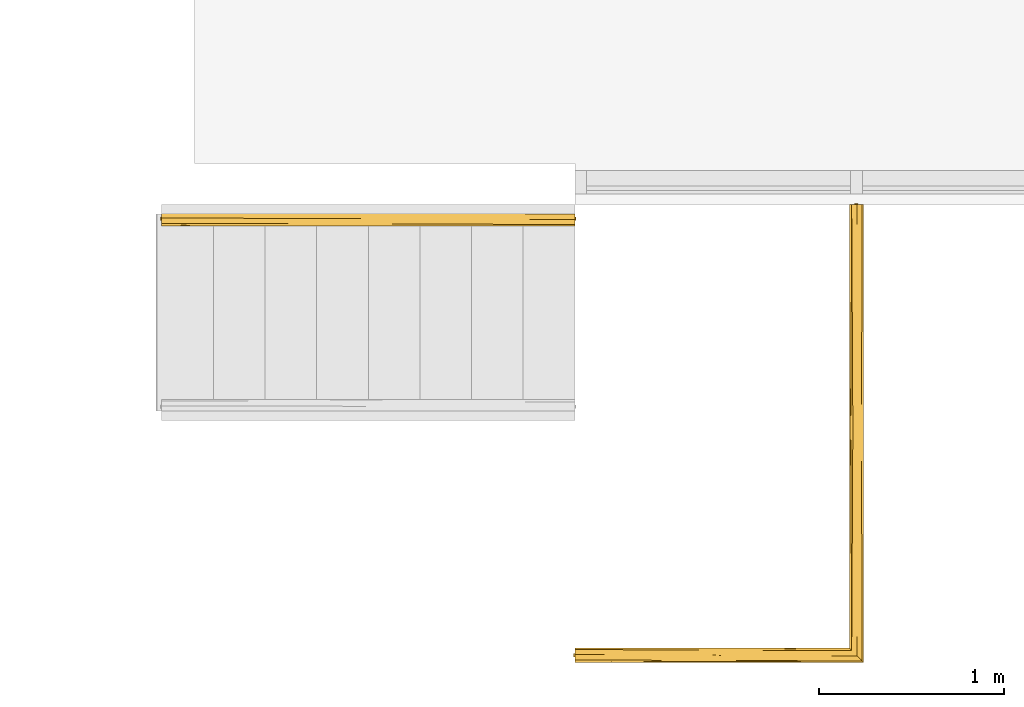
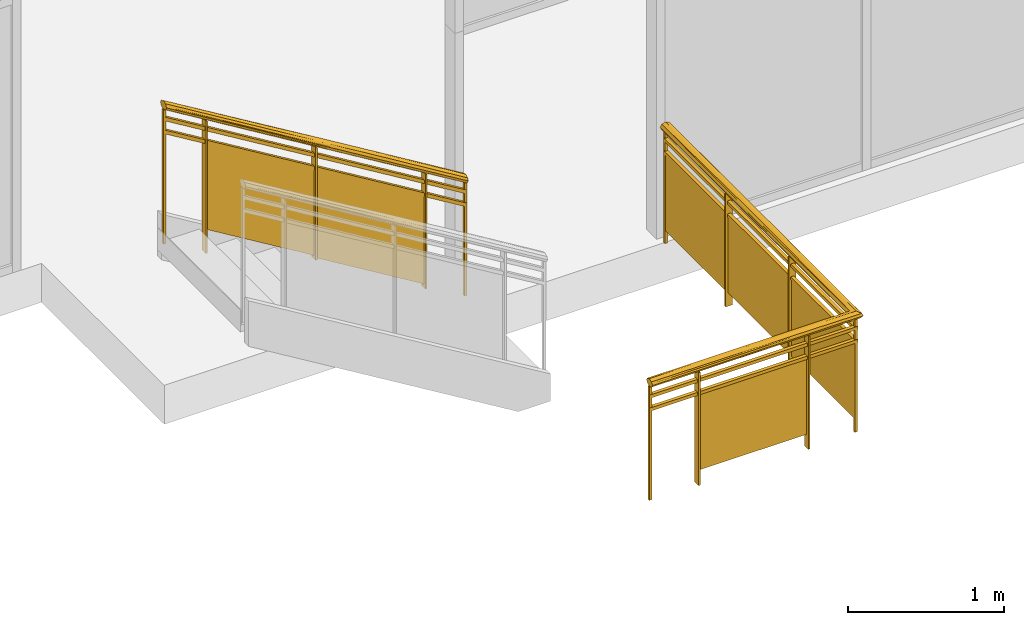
# One storey, part 10 of 11: 2 railings, 1 element without a shape of its own.
"""IFC2X3 building model written with IfcOpenShell, lengths in feet."""

from ifc_helpers import new_model, entity, si_unit, converted_unit, derived_unit, direction, frame, origin, place, context, subcontext, project, spatial, faceted_brep, material, material_list, element, aggregate, save


model = new_model("IFC2X3")

# Units and contexts
model_context = context("Model", 3, precision=0.0001, world=origin(), true_north=direction((6.12303176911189e-17, 1.0)))
body_context = subcontext(model_context, "Body", "Model", "MODEL_VIEW")
ifc_project = project(units=[converted_unit("LENGTHUNIT", "FOOT", entity("IfcRatioMeasure", 0.3048), si_unit("LENGTHUNIT", "METRE"), dimensions=[1, 0, 0, 0, 0, 0, 0]), converted_unit("AREAUNIT", "SQUARE FOOT", entity("IfcRatioMeasure", 0.09290304), si_unit("AREAUNIT", "SQUARE_METRE"), dimensions=[2, 0, 0, 0, 0, 0, 0]), converted_unit("VOLUMEUNIT", "CUBIC FOOT", entity("IfcRatioMeasure", 0.028316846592), si_unit("VOLUMEUNIT", "CUBIC_METRE"), dimensions=[3, 0, 0, 0, 0, 0, 0]), converted_unit("PLANEANGLEUNIT", "DEGREE", entity("IfcRatioMeasure", 0.0174532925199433), si_unit("PLANEANGLEUNIT", "RADIAN"), dimensions=[0, 0, 0, 0, 0, 0, 0]), si_unit("MASSUNIT", "GRAM", prefix="KILO"), derived_unit("MASSDENSITYUNIT", [(si_unit("MASSUNIT", "GRAM", prefix="KILO"), 1), (si_unit("LENGTHUNIT", "METRE"), -3)]), si_unit("TIMEUNIT", "SECOND"), si_unit("FREQUENCYUNIT", "HERTZ"), si_unit("THERMODYNAMICTEMPERATUREUNIT", "DEGREE_CELSIUS"), derived_unit("THERMALTRANSMITTANCEUNIT", [(si_unit("MASSUNIT", "GRAM", prefix="KILO"), 1), (si_unit("THERMODYNAMICTEMPERATUREUNIT", "KELVIN"), -1), (si_unit("TIMEUNIT", "SECOND"), -3)]), derived_unit("VOLUMETRICFLOWRATEUNIT", [(si_unit("LENGTHUNIT", "METRE"), 3), (si_unit("TIMEUNIT", "SECOND"), -1)]), si_unit("ELECTRICCURRENTUNIT", "AMPERE"), si_unit("ELECTRICVOLTAGEUNIT", "VOLT"), si_unit("POWERUNIT", "WATT"), si_unit("FORCEUNIT", "NEWTON"), si_unit("ILLUMINANCEUNIT", "LUX"), si_unit("LUMINOUSFLUXUNIT", "LUMEN"), si_unit("LUMINOUSINTENSITYUNIT", "CANDELA"), derived_unit("USERDEFINED", [(si_unit("MASSUNIT", "GRAM", prefix="KILO"), -1), (si_unit("LENGTHUNIT", "METRE"), -2), (si_unit("TIMEUNIT", "SECOND"), 3), (si_unit("LUMINOUSFLUXUNIT", "LUMEN"), 1)]), derived_unit("LINEARVELOCITYUNIT", [(si_unit("LENGTHUNIT", "METRE"), 1), (si_unit("TIMEUNIT", "SECOND"), -1)]), si_unit("PRESSUREUNIT", "PASCAL"), derived_unit("USERDEFINED", [(si_unit("LENGTHUNIT", "METRE"), -2), (si_unit("MASSUNIT", "GRAM", prefix="KILO"), 1), (si_unit("TIMEUNIT", "SECOND"), -2)])], contexts=[model_context])

# Site, building, storey
site_placement = place(None, origin())
site = spatial("IfcSite", under=ifc_project, at=site_placement, Name="Default", CompositionType="ELEMENT")
building_placement = place(site_placement, origin())
building = spatial("IfcBuilding", under=site, at=building_placement, CompositionType="ELEMENT")
storey_placement = place(building_placement, frame((0.0, 0.0, 40.0)))
storey = spatial("IfcBuildingStorey", under=building, at=storey_placement, Name="L 7", CompositionType="ELEMENT", Elevation=39.9999999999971)

# Stair, railing
stair_placement = place(storey_placement, origin())
stair = element("IfcStair", 1, at=stair_placement, inside=storey, Name="Assembled Stair:Stair", ObjectType="Assembled Stair:7\" max riser 11\" tread", ShapeType="NOTDEFINED")
ifc_material_1 = material(Name="Glass")
ifc_material_2 = material(Name="alum - color")
ifc_material_list_1 = material_list([ifc_material_1, ifc_material_2])
railing_1_placement = place(stair_placement, frame((-29.0126627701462, -7.71720842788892, 0.555555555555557)))
railing_1 = element("IfcRailing", 2, at=railing_1_placement, material=ifc_material_list_1, Name="Railing:Glass Panel - Bottom Fill", ObjectType="Railing:Glass Panel - Bottom Fill", PredefinedType="NOTDEFINED", context=body_context, shape_type="Brep", body=[
    faceted_brep([(6.33333333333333, 0.213567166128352, 3.50850232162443), (6.33333333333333, 0.213567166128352, 0.555555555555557), (6.33333333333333, 0.0469004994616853, 0.555555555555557), (6.33333333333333, 0.0469004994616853, 3.50850232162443), (6.375, 0.213567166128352, 3.4832497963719), (6.375, 0.213567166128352, 0.555555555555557), (6.375, 0.0469004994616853, 3.4832497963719), (6.375, 0.0469004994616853, 0.555555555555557)], [[[0, 1, 2, 3]], [[4, 5, 1, 0]], [[6, 7, 5, 4]], [[3, 2, 7, 6]], [[3, 6, 4, 0]], [[1, 5, 7, 2]]]),
    faceted_brep([(3.6875, 0.108793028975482, 2.25252525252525), (6.35416666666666, 0.10879302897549, 0.636363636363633), (6.35416666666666, 0.10879302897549, 2.89067226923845), (3.6875, 0.108793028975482, 4.50683388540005), (3.6875, 0.129626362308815, 2.25252525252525), (3.6875, 0.129626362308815, 4.50683388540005), (6.35416666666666, 0.129626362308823, 2.89067226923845), (6.35416666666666, 0.129626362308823, 0.636363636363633)], [[[0, 1, 2, 3]], [[4, 5, 6, 7]], [[3, 5, 4, 0]], [[2, 6, 5, 3]], [[1, 7, 6, 2]], [[0, 4, 7, 1]]]),
    faceted_brep([(3.66666666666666, 0.213567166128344, 5.12466393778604), (3.66666666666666, 0.213567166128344, 2.22222222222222), (3.66666666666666, 0.0469004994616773, 2.22222222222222), (3.66666666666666, 0.0469004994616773, 5.12466393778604), (3.70833333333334, 0.213567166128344, 5.09941141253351), (3.70833333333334, 0.213567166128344, 2.22222222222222), (3.70833333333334, 0.0469004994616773, 5.09941141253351), (3.70833333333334, 0.0469004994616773, 2.22222222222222)], [[[0, 1, 2, 3]], [[4, 5, 1, 0]], [[6, 7, 5, 4]], [[3, 2, 7, 6]], [[3, 6, 4, 0]], [[1, 5, 7, 2]]]),
    faceted_brep([(1.02083333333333, 0.108793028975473, 3.91919191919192), (3.6875, 0.108793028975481, 2.3030303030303), (3.6875, 0.108793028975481, 4.50683388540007), (1.02083333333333, 0.108793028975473, 6.12299550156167), (1.02083333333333, 0.129626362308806, 3.91919191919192), (1.02083333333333, 0.129626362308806, 6.12299550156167), (3.6875, 0.129626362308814, 4.50683388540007), (3.6875, 0.129626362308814, 2.3030303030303)], [[[0, 1, 2, 3]], [[4, 5, 6, 7]], [[3, 5, 4, 0]], [[2, 6, 5, 3]], [[1, 7, 6, 2]], [[0, 4, 7, 1]]]),
    faceted_brep([(1.0, 0.213567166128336, 6.74082555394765), (1.0, 0.213567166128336, 3.33333333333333), (1.0, 0.0469004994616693, 3.33333333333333), (1.0, 0.0469004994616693, 6.74082555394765), (1.04166666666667, 0.213567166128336, 6.71557302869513), (1.04166666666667, 0.213567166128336, 3.33333333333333), (1.04166666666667, 0.0469004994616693, 6.71557302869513), (1.04166666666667, 0.0469004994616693, 3.33333333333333)], [[[0, 1, 2, 3]], [[4, 5, 1, 0]], [[6, 7, 5, 4]], [[3, 2, 7, 6]], [[3, 6, 4, 0]], [[1, 5, 7, 2]]]),
    faceted_brep([(7.3125, 0.161483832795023, 2.91506797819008), (7.3125, 0.161483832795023, 0.0), (7.3125, 0.0989838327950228, 0.0), (7.3125, 0.0989838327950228, 2.91506797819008), (7.375, 0.161483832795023, 2.87718919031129), (7.375, 0.161483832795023, 0.0), (7.375, 0.0989838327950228, 2.87718919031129), (7.375, 0.0989838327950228, 0.0)], [[[0, 1, 2, 3]], [[4, 5, 1, 0]], [[6, 7, 5, 4]], [[3, 2, 7, 6]], [[3, 6, 4, 0]], [[1, 5, 7, 2]]]),
    faceted_brep([(0.0, 0.161483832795, 7.34688616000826), (0.0, 0.161483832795, 3.88888888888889), (0.0, 0.0989838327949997, 3.88888888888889), (0.0, 0.0989838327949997, 7.34688616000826), (0.0625, 0.161483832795, 7.30900737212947), (0.0625, 0.161483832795, 3.88888888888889), (0.0625, 0.0989838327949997, 7.30900737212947), (0.0625, 0.0989838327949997, 3.88888888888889)], [[[0, 1, 2, 3]], [[4, 5, 1, 0]], [[6, 7, 5, 4]], [[3, 2, 7, 6]], [[3, 6, 4, 0]], [[1, 5, 7, 2]]]),
    faceted_brep([(0.0208333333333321, 0.171900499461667, 7.1598327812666), (0.0208333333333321, 0.171900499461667, 7.06238944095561), (0.0208333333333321, 0.0885671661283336, 7.06238944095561), (0.0208333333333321, 0.0885671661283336, 7.1598327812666), (7.35416666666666, 0.17190049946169, 2.71538833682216), (7.35416666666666, 0.0885671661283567, 2.71538833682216), (7.35416666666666, 0.0885671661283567, 2.61794499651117), (7.35416666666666, 0.17190049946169, 2.61794499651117)], [[[0, 1, 2, 3]], [[4, 5, 6, 7]], [[1, 0, 4, 7]], [[2, 1, 7, 6]], [[3, 2, 6, 5]], [[0, 3, 5, 4]]]),
    faceted_brep([(0.0208333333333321, 0.171900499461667, 6.82649944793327), (0.0208333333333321, 0.171900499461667, 6.72905610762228), (0.0208333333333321, 0.0885671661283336, 6.72905610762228), (0.0208333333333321, 0.0885671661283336, 6.82649944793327), (7.35416666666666, 0.17190049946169, 2.38205500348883), (7.35416666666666, 0.0885671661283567, 2.38205500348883), (7.35416666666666, 0.0885671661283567, 2.28461166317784), (7.35416666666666, 0.17190049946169, 2.28461166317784)], [[[0, 1, 2, 3]], [[4, 5, 6, 7]], [[1, 0, 4, 7]], [[2, 1, 7, 6]], [[3, 2, 6, 5]], [[0, 3, 5, 4]]]),
    faceted_brep([(7.35416666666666, 0.213875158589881, 3.08146632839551), (7.35416666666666, 0.165521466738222, 3.09524477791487), (7.35416666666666, 0.117167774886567, 3.10902322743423), (7.35416666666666, 0.0731372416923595, 3.08672922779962), (7.35416666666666, 0.0291067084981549, 3.06443522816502), (7.35416666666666, 0.017170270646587, 3.03221761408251), (7.35416666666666, 0.00523383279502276, 3.0), (7.35416666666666, 0.0259131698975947, 2.95926683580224), (7.35416666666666, 0.0465925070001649, 2.91853367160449), (7.35416666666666, 0.0949461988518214, 2.90475522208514), (7.35416666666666, 0.11912304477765, 2.89786599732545), (7.35416666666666, 0.143299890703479, 2.89097677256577), (7.35416666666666, 0.187330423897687, 2.91327077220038), (7.35416666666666, 0.231360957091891, 2.93556477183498), (7.35416666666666, 0.243297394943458, 2.96778238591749), (7.35416666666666, 0.255233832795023, 3.0), (7.35416666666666, 0.234554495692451, 3.04073316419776), (0.0208333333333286, 0.234554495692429, 7.40371128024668), (0.0208333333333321, 0.213875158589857, 7.36297811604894), (0.0208333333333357, 0.1655214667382, 7.34919966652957), (0.0208333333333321, 0.117167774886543, 7.33542121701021), (0.0208333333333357, 0.0731372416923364, 7.35771521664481), (0.0208333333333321, 0.0291067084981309, 7.38000921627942), (0.0208333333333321, 0.0171702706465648, 7.41222683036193), (0.0208333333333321, 0.00523383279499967, 7.44444444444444), (0.0208333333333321, 0.0160886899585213, 7.4658258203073), (0.0208333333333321, 0.0259131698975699, 7.48517760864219), (0.0208333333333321, 0.0465925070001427, 7.52591077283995), (0.0208333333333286, 0.0949461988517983, 7.53968922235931), (0.0208333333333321, 0.143299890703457, 7.55346767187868), (0.0208333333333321, 0.165315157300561, 7.54232067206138), (0.0208333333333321, 0.187330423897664, 7.53117367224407), (0.0208333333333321, 0.231360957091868, 7.50887967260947), (0.0208333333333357, 0.243297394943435, 7.47666205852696), (0.0208333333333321, 0.255233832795, 7.44444444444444), (3.6747094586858, 0.0137122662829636, 5.19028869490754), (3.50252181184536, 0.0829558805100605, 5.23284993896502), (3.45921612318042, 0.0528675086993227, 5.27447257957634), (4.29628493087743, 0.0291542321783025, 4.78876910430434), (4.21550662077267, 0.00523383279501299, 4.90221820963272), (3.15949109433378, 0.00523383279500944, 5.54222761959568), (3.33385169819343, 0.197494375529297, 5.34415364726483), (4.1491412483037, 0.165864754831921, 4.83736380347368), (3.68570699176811, 0.13026662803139, 5.11368513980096), (3.64781981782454, 0.223695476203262, 5.17347577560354), (3.92848502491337, 0.242734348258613, 5.02838773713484), (4.21551438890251, 0.255233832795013, 4.90221350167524), (3.82716822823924, 0.248958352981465, 5.17187272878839), (4.04455402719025, 0.234486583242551, 5.06630868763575), (3.23018888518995, 0.211415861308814, 5.58273826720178), (3.68909777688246, 0.181027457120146, 5.32141906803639), (4.183508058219, 0.00868237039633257, 4.94718335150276), (3.83159048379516, 0.133323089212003, 5.24448493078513), (3.94783373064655, 0.098844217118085, 5.17055526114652), (3.77597728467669, 0.0386138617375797, 5.24317359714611), (3.99573411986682, 0.0188155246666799, 5.08510860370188), (3.11455551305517, 0.067139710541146, 5.66409552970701)], [[[0, 1, 2, 3, 4, 5, 6, 7, 8, 9, 10, 11, 12, 13, 14, 15, 16]], [[17, 18, 19, 20, 21, 22, 23, 24, 25, 26, 27, 28, 29, 30, 31, 32, 33, 34]], [[35, 7, 6]], [[9, 8, 36, 10]], [[22, 37, 38]], [[37, 36, 8]], [[21, 36, 37]], [[35, 6, 39, 40]], [[41, 42, 19]], [[38, 7, 35]], [[19, 42, 43]], [[44, 41, 18]], [[13, 45, 14]], [[8, 38, 37]], [[44, 12, 41]], [[38, 8, 7]], [[11, 43, 42]], [[17, 34, 46]], [[35, 23, 22]], [[11, 10, 43]], [[40, 24, 23]], [[21, 37, 22]], [[36, 21, 20]], [[36, 20, 43]], [[36, 43, 10]], [[43, 20, 19]], [[42, 12, 11]], [[12, 42, 41]], [[13, 12, 44]], [[18, 41, 19]], [[46, 15, 14]], [[44, 18, 17]], [[17, 45, 44]], [[38, 35, 22]], [[45, 17, 46]], [[23, 35, 40]], [[44, 45, 13]], [[14, 45, 46]], [[16, 47, 48]], [[0, 48, 49]], [[49, 31, 50]], [[31, 30, 50]], [[51, 26, 25]], [[2, 52, 53]], [[54, 27, 26]], [[54, 55, 4]], [[26, 51, 55]], [[47, 16, 15]], [[54, 26, 55]], [[5, 4, 55]], [[25, 24, 40, 39]], [[56, 54, 3]], [[56, 3, 53]], [[50, 0, 49]], [[27, 54, 56]], [[51, 39, 6]], [[53, 52, 28]], [[54, 4, 3]], [[56, 28, 27]], [[28, 56, 53]], [[5, 55, 51]], [[29, 28, 52]], [[2, 53, 3]], [[30, 29, 52]], [[52, 2, 1]], [[1, 0, 50]], [[52, 50, 30]], [[1, 50, 52]], [[49, 32, 31]], [[32, 49, 48]], [[33, 48, 47]], [[16, 48, 0]], [[46, 34, 47, 15]], [[33, 32, 48]], [[33, 47, 34]], [[5, 51, 6]], [[39, 51, 25]]]),
])
aggregate(stair, [railing_1])

# Railing
ifc_material_list_2 = material_list([ifc_material_1, ifc_material_2])
railing_2_placement = place(storey_placement, frame((-21.6793294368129, -15.4672084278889, 0.0)))
element("IfcRailing", 3, at=railing_2_placement, inside=storey, material=ifc_material_list_2, Name="Railing:Glass Panel - Bottom Fill", ObjectType="Railing:Glass Panel - Bottom Fill", PredefinedType="NOTDEFINED", context=body_context, shape_type="Brep", body=[
    faceted_brep([(1.20833333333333, 0.0469004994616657, 2.90577041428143), (1.20833333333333, 0.0469004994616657, 0.0), (1.20833333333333, 0.213567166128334, 0.0), (1.20833333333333, 0.213567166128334, 2.90577041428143), (1.16666666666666, 0.0469004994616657, 2.90577041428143), (1.16666666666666, 0.0469004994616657, 0.0), (1.16666666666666, 0.213567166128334, 2.90577041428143), (1.16666666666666, 0.213567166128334, 0.0)], [[[0, 1, 2, 3]], [[4, 5, 1, 0]], [[6, 7, 5, 4]], [[3, 2, 7, 6]], [[3, 6, 4, 0]], [[1, 5, 7, 2]]]),
    faceted_brep([(3.85416666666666, 0.15167463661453, 0.333333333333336), (1.18749999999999, 0.15167463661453, 0.333333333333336), (1.18749999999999, 0.15167463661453, 2.29166666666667), (3.85416666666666, 0.15167463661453, 2.29166666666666), (3.85416666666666, 0.130841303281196, 0.333333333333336), (3.85416666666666, 0.130841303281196, 2.29166666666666), (1.18749999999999, 0.130841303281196, 2.29166666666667), (1.18749999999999, 0.130841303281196, 0.333333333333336)], [[[0, 1, 2, 3]], [[4, 5, 6, 7]], [[3, 5, 4, 0]], [[2, 6, 5, 3]], [[1, 7, 6, 2]], [[0, 4, 7, 1]]]),
    faceted_brep([(3.87499999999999, 0.0469004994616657, 2.90577041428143), (3.87499999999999, 0.0469004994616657, 0.0), (3.87499999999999, 0.213567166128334, 0.0), (3.87499999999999, 0.213567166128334, 2.90577041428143), (3.83333333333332, 0.0469004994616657, 2.90577041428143), (3.83333333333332, 0.0469004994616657, 0.0), (3.83333333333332, 0.213567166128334, 2.90577041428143), (3.83333333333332, 0.213567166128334, 0.0)], [[[0, 1, 2, 3]], [[4, 5, 1, 0]], [[6, 7, 5, 4]], [[3, 2, 7, 6]], [[3, 6, 4, 0]], [[1, 5, 7, 2]]]),
    faceted_brep([(4.99939252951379, 2.79690049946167, 0.333333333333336), (4.99939252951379, 0.130233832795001, 0.333333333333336), (4.99939252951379, 0.130233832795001, 2.29166666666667), (4.99939252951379, 2.79690049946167, 2.29166666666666), (5.02022586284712, 2.79690049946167, 0.333333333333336), (5.02022586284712, 2.79690049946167, 2.29166666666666), (5.02022586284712, 0.130233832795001, 2.29166666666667), (5.02022586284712, 0.130233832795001, 0.333333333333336)], [[[0, 1, 2, 3]], [[4, 5, 6, 7]], [[3, 5, 4, 0]], [[2, 6, 5, 3]], [[1, 7, 6, 2]], [[0, 4, 7, 1]]]),
    faceted_brep([(5.10416666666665, 2.817733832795, 2.90577041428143), (5.10416666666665, 2.817733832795, 0.0), (4.93749999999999, 2.817733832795, 0.0), (4.93749999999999, 2.817733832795, 2.90577041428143), (5.10416666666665, 2.77606716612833, 2.90577041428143), (5.10416666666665, 2.77606716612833, 0.0), (4.93749999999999, 2.77606716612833, 2.90577041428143), (4.93749999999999, 2.77606716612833, 0.0)], [[[0, 1, 2, 3]], [[4, 5, 1, 0]], [[6, 7, 5, 4]], [[3, 2, 7, 6]], [[3, 6, 4, 0]], [[1, 5, 7, 2]]]),
    faceted_brep([(4.99939252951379, 5.46356716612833, 0.333333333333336), (4.99939252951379, 2.79690049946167, 0.333333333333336), (4.99939252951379, 2.79690049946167, 2.29166666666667), (4.99939252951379, 5.46356716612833, 2.29166666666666), (5.02022586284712, 5.46356716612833, 0.333333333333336), (5.02022586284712, 5.46356716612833, 2.29166666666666), (5.02022586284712, 2.79690049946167, 2.29166666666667), (5.02022586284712, 2.79690049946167, 0.333333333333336)], [[[0, 1, 2, 3]], [[4, 5, 6, 7]], [[3, 5, 4, 0]], [[2, 6, 5, 3]], [[1, 7, 6, 2]], [[0, 4, 7, 1]]]),
    faceted_brep([(5.10416666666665, 5.48440049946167, 2.90577041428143), (5.10416666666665, 5.48440049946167, 0.0), (4.93749999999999, 5.48440049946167, 0.0), (4.93749999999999, 5.48440049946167, 2.90577041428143), (5.10416666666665, 5.442733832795, 2.90577041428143), (5.10416666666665, 5.442733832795, 0.0), (4.93749999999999, 5.442733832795, 2.90577041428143), (4.93749999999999, 5.442733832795, 0.0)], [[[0, 1, 2, 3]], [[4, 5, 1, 0]], [[6, 7, 5, 4]], [[3, 2, 7, 6]], [[3, 6, 4, 0]], [[1, 5, 7, 2]]]),
    faceted_brep([(4.99939252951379, 8.130233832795, 0.333333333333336), (4.99939252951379, 5.46356716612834, 0.333333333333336), (4.99939252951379, 5.46356716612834, 2.29166666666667), (4.99939252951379, 8.130233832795, 2.29166666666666), (5.02022586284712, 8.130233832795, 0.333333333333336), (5.02022586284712, 8.130233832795, 2.29166666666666), (5.02022586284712, 5.46356716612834, 2.29166666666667), (5.02022586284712, 5.46356716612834, 0.333333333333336)], [[[0, 1, 2, 3]], [[4, 5, 6, 7]], [[3, 5, 4, 0]], [[2, 6, 5, 3]], [[1, 7, 6, 2]], [[0, 4, 7, 1]]]),
    faceted_brep([(5.05208333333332, 0.161483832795, 2.90577041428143), (5.05208333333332, 0.161483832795, 0.0), (4.98958333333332, 0.161483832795, 0.0), (4.98958333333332, 0.161483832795, 2.90577041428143), (5.05208333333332, 0.0989838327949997, 2.90577041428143), (5.05208333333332, 0.0989838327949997, 0.0), (4.98958333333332, 0.0989838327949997, 2.90577041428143), (4.98958333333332, 0.0989838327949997, 0.0)], [[[0, 1, 2, 3]], [[4, 5, 1, 0]], [[6, 7, 5, 4]], [[3, 2, 7, 6]], [[3, 6, 4, 0]], [[1, 5, 7, 2]]]),
    faceted_brep([(0.0625, 0.0989838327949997, 2.90577041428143), (0.0625, 0.0989838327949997, 0.0), (0.0625, 0.161483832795, 0.0), (0.0625, 0.161483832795, 2.90577041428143), (0.0, 0.0989838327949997, 2.90577041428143), (0.0, 0.0989838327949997, 0.0), (0.0, 0.161483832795, 2.90577041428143), (0.0, 0.161483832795, 0.0)], [[[0, 1, 2, 3]], [[4, 5, 1, 0]], [[6, 7, 5, 4]], [[3, 2, 7, 6]], [[3, 6, 4, 0]], [[1, 5, 7, 2]]]),
    faceted_brep([(5.05208333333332, 8.15106716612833, 2.90577041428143), (5.05208333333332, 8.15106716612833, 0.0), (4.98958333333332, 8.15106716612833, 0.0), (4.98958333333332, 8.15106716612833, 2.90577041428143), (5.05208333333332, 8.08856716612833, 2.90577041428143), (5.05208333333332, 8.08856716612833, 0.0), (4.98958333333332, 8.08856716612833, 2.90577041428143), (4.98958333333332, 8.08856716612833, 0.0)], [[[0, 1, 2, 3]], [[4, 5, 1, 0]], [[6, 7, 5, 4]], [[3, 2, 7, 6]], [[3, 6, 4, 0]], [[1, 5, 7, 2]]]),
    faceted_brep([(5.06249999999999, 8.130233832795, 2.70833333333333), (5.06249999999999, 8.130233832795, 2.62499999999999), (4.97916666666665, 8.130233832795, 2.625), (4.97916666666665, 8.130233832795, 2.70833333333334), (4.97916666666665, 0.171900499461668, 2.70833333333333), (5.06249999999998, 0.0885671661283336, 2.70833333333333), (4.97916666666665, 0.171900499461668, 2.625), (5.06249999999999, 0.0885671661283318, 2.625), (0.0208333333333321, 0.0885671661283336, 2.70833333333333), (0.0208333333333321, 0.171900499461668, 2.70833333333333), (0.0208333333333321, 0.171900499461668, 2.625), (0.0208333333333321, 0.0885671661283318, 2.625)], [[[0, 1, 2, 3]], [[0, 3, 4, 5]], [[3, 2, 6, 4]], [[2, 1, 7, 6]], [[1, 0, 5, 7]], [[8, 9, 10, 11]], [[5, 4, 9, 8]], [[4, 6, 10, 9]], [[6, 7, 11, 10]], [[7, 5, 8, 11]]]),
    faceted_brep([(5.06249999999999, 8.130233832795, 2.375), (5.06249999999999, 8.130233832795, 2.29166666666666), (4.97916666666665, 8.130233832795, 2.29166666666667), (4.97916666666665, 8.130233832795, 2.37500000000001), (4.97916666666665, 0.171900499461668, 2.375), (5.06249999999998, 0.0885671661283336, 2.375), (4.97916666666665, 0.171900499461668, 2.29166666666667), (5.06249999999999, 0.0885671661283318, 2.29166666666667), (0.0208333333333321, 0.0885671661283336, 2.375), (0.0208333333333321, 0.171900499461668, 2.375), (0.0208333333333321, 0.171900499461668, 2.29166666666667), (0.0208333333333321, 0.0885671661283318, 2.29166666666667)], [[[0, 1, 2, 3]], [[0, 3, 4, 5]], [[3, 2, 6, 4]], [[2, 1, 7, 6]], [[1, 0, 5, 7]], [[8, 9, 10, 11]], [[5, 4, 9, 8]], [[4, 6, 10, 9]], [[6, 7, 11, 10]], [[7, 5, 8, 11]]]),
    faceted_brep([(5.00776727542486, 8.130233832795, 2.90676357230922), (4.96373674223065, 8.130233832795, 2.92582935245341), (4.91970620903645, 8.130233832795, 2.94489513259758), (4.90776977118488, 8.130233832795, 2.97244756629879), (4.89583333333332, 8.130233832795, 3.0), (4.91651267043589, 8.130233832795, 3.03483491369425), (4.93719200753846, 8.130233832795, 3.06966982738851), (4.98554569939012, 8.130233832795, 3.08145312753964), (5.03389939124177, 8.130233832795, 3.09323642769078), (5.07792992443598, 8.130233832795, 3.07417064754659), (5.12196045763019, 8.130233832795, 3.05510486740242), (5.13389689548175, 8.130233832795, 3.02755243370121), (5.14583333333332, 8.130233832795, 3.0), (5.12515399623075, 8.130233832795, 2.96516508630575), (5.10447465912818, 8.130233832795, 2.9303301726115), (5.05612096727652, 8.130233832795, 2.91854687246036), (5.03389939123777, 4.13676685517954, 2.90676357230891), (4.90776977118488, 0.243297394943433, 2.97244756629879), (4.90949198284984, 4.180797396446, 2.95738769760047), (4.91970620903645, 0.231360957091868, 2.94489513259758), (5.12515399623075, 0.0259131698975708, 2.96516508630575), (5.12196045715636, 4.08841313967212, 2.94489513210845), (5.13760764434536, 4.07807343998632, 2.96655336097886), (5.10447465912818, 0.0465925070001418, 2.9303301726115), (5.08353660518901, 4.08841318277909, 2.91889832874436), (4.98240730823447, 4.13676686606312, 2.91078958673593), (4.92954232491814, 4.1807973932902, 2.93595969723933), (4.89924080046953, 3.78364768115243, 2.97825962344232), (5.08029781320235, 0.0707693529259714, 2.92443852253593), (5.05612096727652, 0.0949461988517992, 2.91854687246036), (4.96373674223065, 0.187330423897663, 2.92582935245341), (4.95384112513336, 4.20738820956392, 2.92085085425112), (4.90671106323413, 0.244356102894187, 2.97489134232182), (4.89583333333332, 0.255233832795, 3.0), (5.00776727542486, 0.143299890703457, 2.90676357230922), (4.89583333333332, 4.55774049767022, 3.0), (4.89583333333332, 4.61312962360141, 3.0), (5.14583333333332, 3.57772891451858, 3.0), (5.14583333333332, 3.52232689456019, 3.0), (5.14583333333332, 0.00523383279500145, 3.0), (5.03194412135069, 0.119123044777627, 2.9126552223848), (4.98554569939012, 0.165521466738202, 3.08145312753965), (5.03389939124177, 0.117167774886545, 3.09323642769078), (5.00776727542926, 4.14787766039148, 3.09323642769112), (5.13220914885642, 4.07967027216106, 3.04256160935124), (5.12196045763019, 0.0291067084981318, 3.05510486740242), (5.13389689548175, 0.0171702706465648, 3.02755243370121), (5.13732804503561, 0.0137391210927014, 3.01963243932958), (4.91651267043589, 0.234554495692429, 3.03483491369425), (4.93719200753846, 0.213875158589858, 3.06966982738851), (4.91976425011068, 4.17205446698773, 3.05516473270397), (4.95833333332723, 4.17205450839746, 3.08118988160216), (5.14248572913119, 4.56614973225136, 3.02155117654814), (5.07792992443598, 0.0731372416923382, 3.07417064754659), (5.05966322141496, 4.1016855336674, 3.08911199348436), (4.90446656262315, 4.18239410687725, 3.03423628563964), (5.11132213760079, 4.07967026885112, 3.06467755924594), (5.08751696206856, 4.2961499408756, 3.07929558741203), (4.9096181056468, 0.241449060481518, 3.02322082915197), (0.0208333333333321, 0.234554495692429, 2.96516508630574), (0.0208333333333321, 0.213875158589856, 2.93033017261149), (0.0208333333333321, 0.165521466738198, 2.91854687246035), (0.0208333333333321, 0.117167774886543, 2.90676357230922), (0.0208333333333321, 0.0731372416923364, 2.92582935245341), (0.0208333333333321, 0.0291067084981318, 2.94489513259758), (0.0208333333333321, 0.0171702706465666, 2.97244756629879), (0.0208333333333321, 0.00523383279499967, 3.0), (0.0208333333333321, 0.0259131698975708, 3.03483491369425), (0.0208333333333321, 0.0465925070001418, 3.06966982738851), (0.0208333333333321, 0.094946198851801, 3.08145312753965), (0.0208333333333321, 0.143299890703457, 3.09323642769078), (0.0208333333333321, 0.187330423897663, 3.07417064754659), (0.0208333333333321, 0.231360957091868, 3.05510486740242), (0.0208333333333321, 0.243297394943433, 3.02755243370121), (0.0208333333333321, 0.255233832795, 3.0), (2.5505655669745, 0.0564588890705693, 2.92431961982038), (2.8962621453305, 0.0307681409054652, 2.94321961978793), (2.24295494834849, 0.197520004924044, 2.92099124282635), (2.43610950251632, 0.22380430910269, 2.93783786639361), (2.52687111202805, 0.0145921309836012, 2.96440859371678), (2.43656163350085, 0.132589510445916, 2.90626664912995), (2.32621046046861, 0.0979297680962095, 2.90943475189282), (2.74510676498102, 0.242343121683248, 2.95853573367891), (2.84265886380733, 0.165863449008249, 2.9101390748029), (2.05852276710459, 0.255233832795, 3.0), (2.78807614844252, 0.255233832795, 3.0), (2.85814402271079, 0.00523383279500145, 3.0), (2.37859063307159, 0.00523383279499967, 3.0), (2.24867187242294, 0.241609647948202, 3.04256160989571), (2.45069101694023, 0.222558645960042, 3.06320114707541), (2.24461549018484, 0.251872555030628, 3.02159454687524), (2.80128551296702, 0.195707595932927, 3.07986069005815), (2.76071940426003, 0.0180983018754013, 3.04142433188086), (2.54570818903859, 0.130792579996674, 3.09374906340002), (2.22597134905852, 0.16433925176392, 3.09019298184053), (2.80818823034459, 0.0959444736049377, 3.09015374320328), (2.58446056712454, 0.0376121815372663, 3.0629563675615), (2.26544877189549, 0.0639929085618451, 3.07950403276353)], [[[0, 1, 2, 3, 4, 5, 6, 7, 8, 9, 10, 11, 12, 13, 14, 15]], [[16, 0, 15]], [[17, 18, 19]], [[20, 21, 22]], [[2, 18, 3]], [[22, 13, 12]], [[23, 24, 21]], [[16, 25, 0]], [[19, 18, 26]], [[17, 27, 18]], [[24, 23, 28, 29]], [[30, 31, 25]], [[2, 26, 18]], [[27, 17, 32, 33]], [[31, 1, 25]], [[24, 16, 15]], [[34, 30, 25]], [[27, 4, 3]], [[21, 14, 13]], [[19, 26, 30]], [[26, 2, 1]], [[27, 33, 35, 36, 4]], [[18, 27, 3]], [[34, 25, 16]], [[0, 25, 1]], [[14, 21, 24]], [[23, 21, 20]], [[21, 13, 22]], [[22, 12, 37, 38, 39]], [[14, 24, 15]], [[16, 29, 40, 34]], [[29, 16, 24]], [[31, 26, 1]], [[26, 31, 30]], [[20, 22, 39]], [[41, 42, 43]], [[44, 45, 46, 47]], [[48, 49, 50]], [[47, 39, 38]], [[50, 6, 5]], [[7, 6, 51]], [[49, 41, 51]], [[52, 38, 37, 12]], [[52, 11, 44]], [[53, 54, 42]], [[8, 54, 9]], [[11, 10, 44]], [[50, 5, 55]], [[7, 43, 8]], [[10, 56, 44]], [[9, 56, 10]], [[52, 44, 47]], [[55, 4, 36, 35, 33]], [[45, 44, 56]], [[56, 53, 45]], [[57, 54, 53]], [[11, 52, 12]], [[38, 52, 47]], [[43, 7, 51]], [[49, 51, 50]], [[54, 8, 43]], [[41, 43, 51]], [[50, 55, 48]], [[6, 50, 51]], [[5, 4, 55]], [[43, 42, 54]], [[9, 54, 57]], [[55, 33, 58, 48]], [[57, 56, 9]], [[56, 57, 53]], [[59, 60, 61, 62, 63, 64, 65, 66, 67, 68, 69, 70, 71, 72, 73, 74]], [[75, 76, 64]], [[77, 60, 78]], [[79, 65, 64]], [[62, 80, 81]], [[82, 32, 17, 19]], [[80, 83, 34]], [[80, 40, 81]], [[77, 61, 60]], [[83, 77, 30]], [[30, 77, 78]], [[32, 84, 85, 33]], [[19, 78, 82]], [[60, 59, 78]], [[82, 59, 84]], [[30, 78, 19]], [[74, 84, 59]], [[82, 78, 59]], [[32, 82, 84]], [[61, 77, 83]], [[62, 61, 80]], [[34, 83, 30]], [[83, 80, 61]], [[28, 23, 75]], [[28, 75, 81]], [[63, 81, 75]], [[81, 63, 62]], [[29, 28, 81, 40]], [[80, 34, 40]], [[75, 64, 63]], [[79, 20, 39]], [[86, 79, 39]], [[76, 75, 23]], [[76, 23, 20]], [[76, 79, 64]], [[76, 20, 79]], [[65, 86, 87, 66]], [[65, 79, 86]], [[73, 72, 88]], [[89, 49, 48]], [[48, 90, 88]], [[89, 48, 88]], [[90, 85, 84, 74]], [[58, 33, 85]], [[71, 91, 89]], [[91, 41, 49]], [[87, 92, 67]], [[70, 93, 94]], [[93, 69, 95]], [[96, 68, 67]], [[49, 89, 91]], [[69, 93, 70]], [[89, 88, 72]], [[90, 48, 58]], [[89, 72, 71]], [[91, 71, 94]], [[41, 91, 94]], [[73, 88, 90]], [[73, 90, 74]], [[85, 90, 58]], [[95, 69, 97]], [[70, 94, 71]], [[42, 41, 93]], [[94, 93, 41]], [[68, 96, 97]], [[95, 42, 93]], [[95, 53, 42]], [[53, 95, 97]], [[45, 92, 46]], [[68, 97, 69]], [[45, 53, 96]], [[97, 96, 53]], [[67, 66, 87]], [[67, 92, 96]], [[46, 87, 86, 39, 47]], [[96, 92, 45]], [[46, 92, 87]]]),
])

save(model, "model.ifc")
